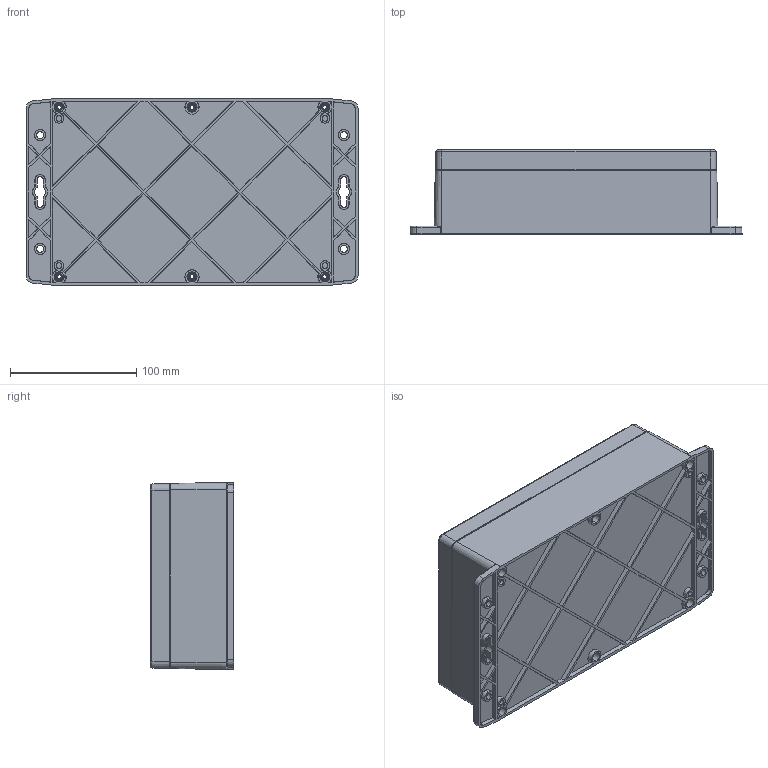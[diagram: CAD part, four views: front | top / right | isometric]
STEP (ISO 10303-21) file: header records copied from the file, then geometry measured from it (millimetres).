
FILE_DESCRIPTION (( 'STEP AP214' ), '1' );
FILE_NAME ('PF256.STEP', '2020-08-29T09:44:11', ( '' ), ( '' ), 'SwSTEP 2.0', 'SolidWorks 2020', '' );
FILE_SCHEMA (( 'AUTOMOTIVE_DESIGN' ));
Length unit declared in the file: millimetre
Products named in the file (4): PF256
Assembly tree (3 placements, depth 2):
  PF256
    PF256
    PF256
    PF256
Bounding box: 262.6 x 66.3 x 148.18 mm (x, y, z)
Volume: 498029.8 mm3; surface area: 328031.8 mm2
Topology: 9 solids, 9 shells, 1482 faces, 3947 edges, 2596 vertices
Faces by surface type: plane 429, cylinder 364, bspline 348, cone 333, torus 8
Entity records: 57495 total; most frequent: CARTESIAN_POINT 14717, ORIENTED_EDGE 7858, DIRECTION 6721, EDGE_CURVE 3929, VERTEX_POINT 2596, AXIS2_PLACEMENT_3D 2446, VECTOR 1829, LINE 1829
